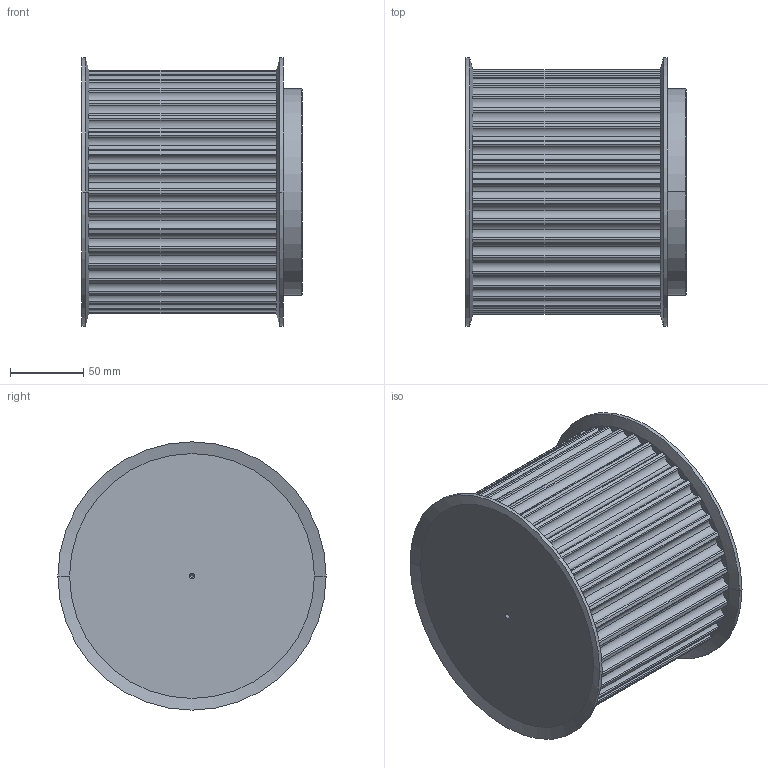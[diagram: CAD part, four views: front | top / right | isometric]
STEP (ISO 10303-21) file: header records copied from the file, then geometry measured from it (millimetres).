
FILE_DESCRIPTION(('STEP AP203'),'1');
FILE_NAME('38_-_14_m_115.stp','2021-09-13T16:20:21',('TraceParts'),('TraceParts S.A.'),'Spatial InterOp 3D',' ',' ');
FILE_SCHEMA(('CONFIG_CONTROL_DESIGN'));
Length unit declared in the file: millimetre
Products named in the file (1): 1
Bounding box: 150.14 x 183 x 183 mm (x, y, z)
Volume: 2984452.4 mm3; surface area: 161828.2 mm2
Topology: 1 solids, 1 shells, 223 faces, 638 edges, 418 vertices
Faces by surface type: cylinder 200, cone 18, plane 5
Entity records: 7536 total; most frequent: DIRECTION 1498, CARTESIAN_POINT 1276, ORIENTED_EDGE 1268, AXIS2_PLACEMENT_3D 640, EDGE_CURVE 634, VERTEX_POINT 418, CIRCLE 416, EDGE_LOOP 228
